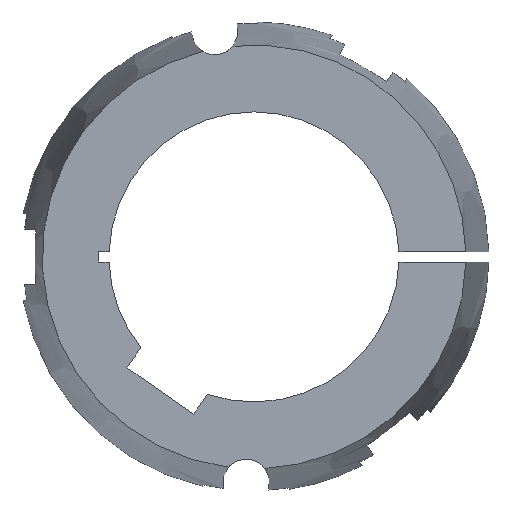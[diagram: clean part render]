
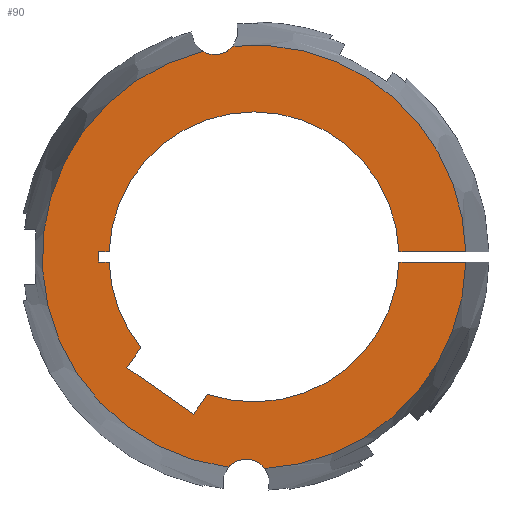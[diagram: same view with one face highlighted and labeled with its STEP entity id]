
A CAD part, left-side view. The second image highlights one B-rep face of the part: STEP entity #90.
In plain terms, the highlighted planar face has unit normal (-1, 0, 0).
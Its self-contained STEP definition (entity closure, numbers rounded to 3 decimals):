
#90 = ADVANCED_FACE( '', ( #140 ), #141, .F. );
#140 = FACE_OUTER_BOUND( '', #208, .T. );
#141 = PLANE( '', #209 );
#208 = EDGE_LOOP( '', ( #369, #370, #371, #372, #373, #374, #375, #376, #377, #378, #379, #380, #381, #382, #383, #384 ) );
#209 = AXIS2_PLACEMENT_3D( '', #385, #386, #387 );
#369 = ORIENTED_EDGE( '', *, *, #548, .F. );
#370 = ORIENTED_EDGE( '', *, *, #601, .F. );
#371 = ORIENTED_EDGE( '', *, *, #570, .T. );
#372 = ORIENTED_EDGE( '', *, *, #583, .T. );
#373 = ORIENTED_EDGE( '', *, *, #581, .T. );
#374 = ORIENTED_EDGE( '', *, *, #578, .T. );
#375 = ORIENTED_EDGE( '', *, *, #587, .T. );
#376 = ORIENTED_EDGE( '', *, *, #602, .T. );
#377 = ORIENTED_EDGE( '', *, *, #603, .T. );
#378 = ORIENTED_EDGE( '', *, *, #604, .T. );
#379 = ORIENTED_EDGE( '', *, *, #605, .T. );
#380 = ORIENTED_EDGE( '', *, *, #606, .T. );
#381 = ORIENTED_EDGE( '', *, *, #572, .T. );
#382 = ORIENTED_EDGE( '', *, *, #607, .F. );
#383 = ORIENTED_EDGE( '', *, *, #551, .F. );
#384 = ORIENTED_EDGE( '', *, *, #608, .F. );
#385 = CARTESIAN_POINT( '', ( -114., 0., 0. ) );
#386 = DIRECTION( '', ( 1., 0., 0. ) );
#387 = DIRECTION( '', ( 0., 1., 0. ) );
#548 = EDGE_CURVE( '', #649, #651, #652, .F. );
#551 = EDGE_CURVE( '', #655, #657, #658, .F. );
#570 = EDGE_CURVE( '', #693, #691, #694, .T. );
#572 = EDGE_CURVE( '', #696, #697, #698, .T. );
#578 = EDGE_CURVE( '', #709, #707, #710, .T. );
#581 = EDGE_CURVE( '', #714, #709, #715, .T. );
#583 = EDGE_CURVE( '', #691, #714, #717, .T. );
#587 = EDGE_CURVE( '', #707, #721, #723, .T. );
#601 = EDGE_CURVE( '', #693, #649, #745, .T. );
#602 = EDGE_CURVE( '', #721, #746, #747, .T. );
#603 = EDGE_CURVE( '', #746, #748, #749, .T. );
#604 = EDGE_CURVE( '', #748, #750, #751, .T. );
#605 = EDGE_CURVE( '', #750, #752, #753, .T. );
#606 = EDGE_CURVE( '', #752, #696, #754, .T. );
#607 = EDGE_CURVE( '', #657, #697, #755, .T. );
#608 = EDGE_CURVE( '', #651, #655, #756, .T. );
#649 = VERTEX_POINT( '', #815 );
#651 = VERTEX_POINT( '', #826 );
#652 = CIRCLE( '', #827, 8.125 );
#655 = VERTEX_POINT( '', #839 );
#657 = VERTEX_POINT( '', #852 );
#658 = CIRCLE( '', #853, 8.125 );
#691 = VERTEX_POINT( '', #920 );
#693 = VERTEX_POINT( '', #923 );
#694 = LINE( '', #924, #925 );
#696 = VERTEX_POINT( '', #933 );
#697 = VERTEX_POINT( '', #934 );
#698 = LINE( '', #935, #936 );
#707 = VERTEX_POINT( '', #954 );
#709 = VERTEX_POINT( '', #957 );
#710 = LINE( '', #958, #959 );
#714 = VERTEX_POINT( '', #965 );
#715 = LINE( '', #966, #967 );
#717 = CIRCLE( '', #970, 50. );
#721 = VERTEX_POINT( '', #975 );
#723 = LINE( '', #978, #979 );
#745 = CIRCLE( '', #1004, 73.028 );
#746 = VERTEX_POINT( '', #1005 );
#747 = CIRCLE( '', #1006, 50. );
#748 = VERTEX_POINT( '', #1007 );
#749 = LINE( '', #1008, #1009 );
#750 = VERTEX_POINT( '', #1010 );
#751 = LINE( '', #1011, #1012 );
#752 = VERTEX_POINT( '', #1013 );
#753 = LINE( '', #1014, #1015 );
#754 = CIRCLE( '', #1016, 50. );
#755 = CIRCLE( '', #1017, 73.028 );
#756 = CIRCLE( '', #1018, 73.028 );
#815 = CARTESIAN_POINT( '', ( -114., -3.751, -72.932 ) );
#826 = CARTESIAN_POINT( '', ( -114., 8.826, -72.493 ) );
#827 = AXIS2_PLACEMENT_3D( '', #1192, #1193, #1194 );
#839 = CARTESIAN_POINT( '', ( -114., 17.661, 70.861 ) );
#852 = CARTESIAN_POINT( '', ( -114., 7.262, 72.666 ) );
#853 = AXIS2_PLACEMENT_3D( '', #1195, #1196, #1197 );
#920 = CARTESIAN_POINT( '', ( -114., -49.969, -1.75 ) );
#923 = CARTESIAN_POINT( '', ( -114., -73.007, -1.75 ) );
#924 = CARTESIAN_POINT( '', ( -114., -81., -1.75 ) );
#925 = VECTOR( '', #1227, 1000. );
#933 = CARTESIAN_POINT( '', ( -114., -49.969, 1.75 ) );
#934 = CARTESIAN_POINT( '', ( -114., -73.007, 1.75 ) );
#935 = CARTESIAN_POINT( '', ( -114., 0., 1.75 ) );
#936 = VECTOR( '', #1228, 1000. );
#954 = CARTESIAN_POINT( '', ( -114., 43.818, -38.17 ) );
#957 = CARTESIAN_POINT( '', ( -114., 20.882, -54.23 ) );
#958 = CARTESIAN_POINT( '', ( -114., 20.882, -54.23 ) );
#959 = VECTOR( '', #1233, 1000. );
#965 = CARTESIAN_POINT( '', ( -114., 16.064, -47.349 ) );
#966 = CARTESIAN_POINT( '', ( -114., 16.064, -47.349 ) );
#967 = VECTOR( '', #1236, 1000. );
#970 = AXIS2_PLACEMENT_3D( '', #1238, #1239, #1240 );
#975 = CARTESIAN_POINT( '', ( -114., 39., -31.289 ) );
#978 = CARTESIAN_POINT( '', ( -114., 43.818, -38.17 ) );
#979 = VECTOR( '', #1246, 1000. );
#1004 = AXIS2_PLACEMENT_3D( '', #1280, #1281, #1282 );
#1005 = CARTESIAN_POINT( '', ( -114., 49.969, -1.75 ) );
#1006 = AXIS2_PLACEMENT_3D( '', #1283, #1284, #1285 );
#1007 = CARTESIAN_POINT( '', ( -114., 53.5, -1.75 ) );
#1008 = CARTESIAN_POINT( '', ( -114., 0., -1.75 ) );
#1009 = VECTOR( '', #1286, 1000. );
#1010 = CARTESIAN_POINT( '', ( -114., 53.5, 1.75 ) );
#1011 = CARTESIAN_POINT( '', ( -114., 53.5, -1.75 ) );
#1012 = VECTOR( '', #1287, 1000. );
#1013 = CARTESIAN_POINT( '', ( -114., 49.969, 1.75 ) );
#1014 = CARTESIAN_POINT( '', ( -114., 53.5, 1.75 ) );
#1015 = VECTOR( '', #1288, 1000. );
#1016 = AXIS2_PLACEMENT_3D( '', #1289, #1290, #1291 );
#1017 = AXIS2_PLACEMENT_3D( '', #1292, #1293, #1294 );
#1018 = AXIS2_PLACEMENT_3D( '', #1295, #1296, #1297 );
#1192 = CARTESIAN_POINT( '', ( -114., 2.717, -77.85 ) );
#1193 = DIRECTION( '', ( 1., 0., 0. ) );
#1194 = DIRECTION( '', ( 0., 1., 0. ) );
#1195 = CARTESIAN_POINT( '', ( -114., 13.519, 77.85 ) );
#1196 = DIRECTION( '', ( 1., 0., 0. ) );
#1197 = DIRECTION( '', ( 0., 1., 0. ) );
#1227 = DIRECTION( '', ( 0., 1., 0. ) );
#1228 = DIRECTION( '', ( 0., -1., 0. ) );
#1233 = DIRECTION( '', ( 0., 0.819, 0.574 ) );
#1236 = DIRECTION( '', ( 0., 0.574, -0.819 ) );
#1238 = CARTESIAN_POINT( '', ( -114., 0., 0. ) );
#1239 = DIRECTION( '', ( 1., 0., 0. ) );
#1240 = DIRECTION( '', ( 0., 0., -1. ) );
#1246 = DIRECTION( '', ( 0., -0.574, 0.819 ) );
#1280 = CARTESIAN_POINT( '', ( -114., 0., 0. ) );
#1281 = DIRECTION( '', ( 1., 0., 0. ) );
#1282 = DIRECTION( '', ( 0., 1., 0. ) );
#1283 = CARTESIAN_POINT( '', ( -114., 0., 0. ) );
#1284 = DIRECTION( '', ( 1., 0., 0. ) );
#1285 = DIRECTION( '', ( 0., 0., -1. ) );
#1286 = DIRECTION( '', ( 0., 1., 0. ) );
#1287 = DIRECTION( '', ( 0., 0., 1. ) );
#1288 = DIRECTION( '', ( 0., -1., 0. ) );
#1289 = CARTESIAN_POINT( '', ( -114., 0., 0. ) );
#1290 = DIRECTION( '', ( 1., 0., 0. ) );
#1291 = DIRECTION( '', ( 0., 0., -1. ) );
#1292 = CARTESIAN_POINT( '', ( -114., 0., 0. ) );
#1293 = DIRECTION( '', ( 1., 0., 0. ) );
#1294 = DIRECTION( '', ( 0., 1., 0. ) );
#1295 = CARTESIAN_POINT( '', ( -114., 0., 0. ) );
#1296 = DIRECTION( '', ( 1., 0., 0. ) );
#1297 = DIRECTION( '', ( 0., 1., 0. ) );
